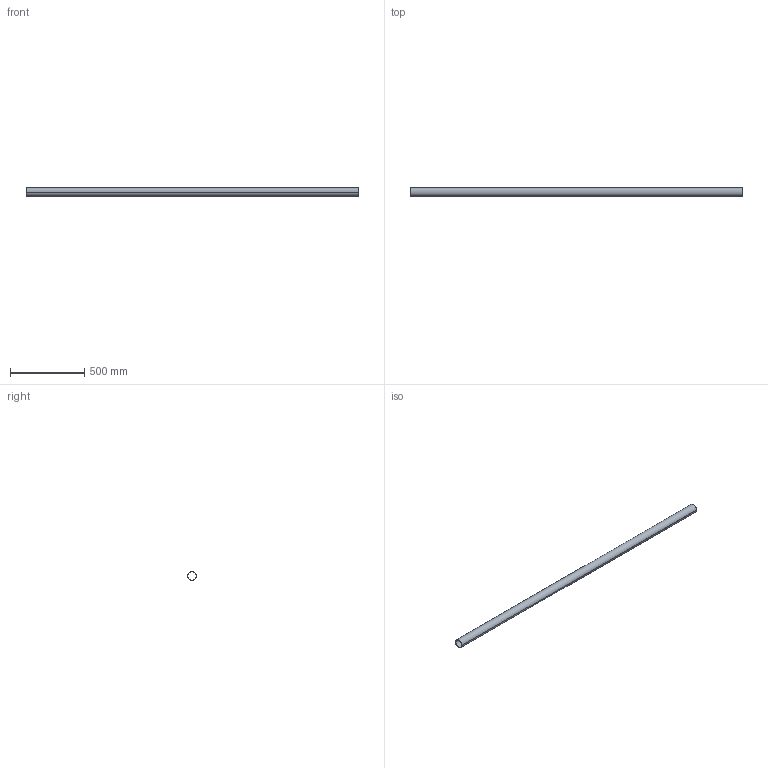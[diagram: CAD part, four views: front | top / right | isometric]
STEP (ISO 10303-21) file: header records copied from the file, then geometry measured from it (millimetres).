
FILE_DESCRIPTION(/* description */ ('(C) Elphel, Inc. 2012. Licensed under CERN OHL v.1.1 or later, see http://ohwr.org/cernohl'),/* implementation_level */ '2;1');
FILE_NAME(/* name */ '0353-25-15',/* time_stamp */ '2012-06-09T12:45:00-06:00',/* author */ (''),/* organization */ ('Elphel, Inc'),/* preprocessor_version */ 'ST-DEVELOPER v12',/* originating_system */ 'VariCAD 2012-1.04; kernel version (20100102)',/* authorisation */ '');
FILE_SCHEMA (('AUTOMOTIVE_DESIGN'));
Length unit declared in the file: millimetre
Products named in the file (1): Part
Bounding box: 2235.29 x 60.33 x 60.33 mm (x, y, z)
Volume: 1119019.5 mm3; surface area: 809366.1 mm2
Topology: 1 solids, 1 shells, 6 faces, 12 edges, 8 vertices
Faces by surface type: cylinder 4, plane 2
Entity records: 195 total; most frequent: DIRECTION 36, CARTESIAN_POINT 28, ORIENTED_EDGE 24, AXIS2_PLACEMENT_3D 16, EDGE_CURVE 12, EDGE_LOOP 8, CIRCLE 8, VERTEX_POINT 8
